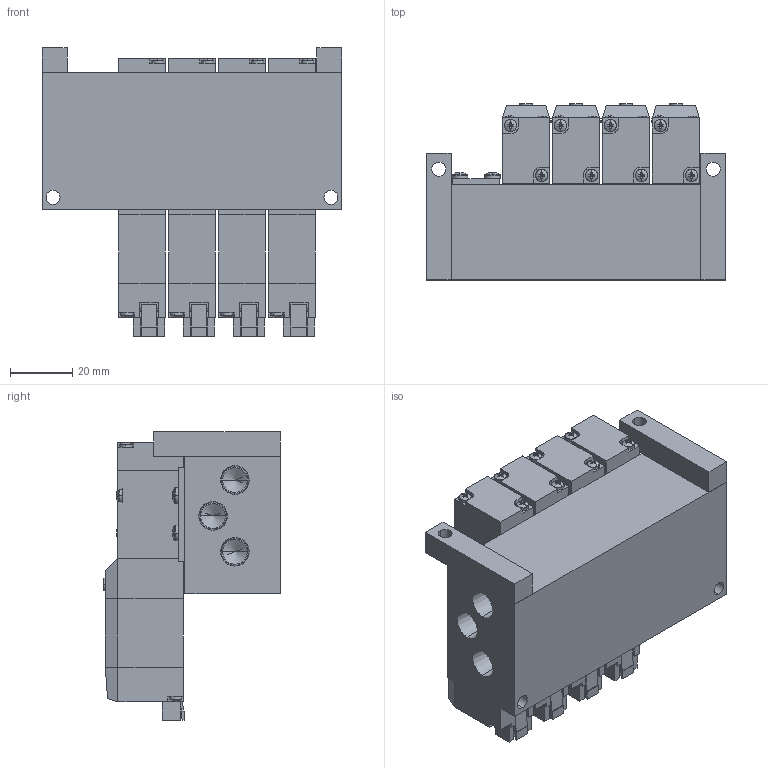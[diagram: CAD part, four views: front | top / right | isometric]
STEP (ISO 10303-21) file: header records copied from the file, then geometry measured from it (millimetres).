
FILE_DESCRIPTION (( 'STEP AP203' ), '1' );
FILE_NAME ('MFS#-PC5-01-B-SP.STEP', '2016-02-04T03:25:09', ( 'Sam Lin' ), ( '' ), 'SwSTEP 2.0', 'SolidWorks 2013', '' );
FILE_SCHEMA (( 'CONFIG_CONTROL_DESIGN' ));
Length unit declared in the file: metre
Products named in the file (13): ISO 7045 - M2 x 10; PC5-8; PC5-3; PC5-10; PC5-5; MFS#-PC5-01-B-SP; PC-MARK; PC5-6; MFS-01-B; PC5-7; MFS-02; ISO 7045 - M2.5 x 25; PC5-2
Assembly tree (60 placements, depth 2):
  MFS#-PC5-01-B-SP
    MFS-01-B
    MFS-02
    ISO 7045 - M2.5 x 25  x10
    PC5-2  x4
    ISO 7045 - M2 x 10  x16
    PC5-3  x4
    PC5-5  x4
    PC-MARK  x4
    PC5-6  x4
    PC5-7  x4
    PC5-8  x4
    PC5-10  x4
Bounding box: 96 x 56.5 x 92.5 mm (x, y, z)
Volume: 235210.4 mm3; surface area: 77445.4 mm2
Topology: 90 solids, 90 shells, 2234 faces, 5495 edges, 3413 vertices
Faces by surface type: plane 1316, cylinder 376, cone 354, bspline 188
Entity records: 17096 total; most frequent: CARTESIAN_POINT 3029, DIRECTION 2429, ORIENTED_EDGE 2272, EDGE_CURVE 1136, AXIS2_PLACEMENT_3D 859, VERTEX_POINT 737, LINE 711, VECTOR 711
